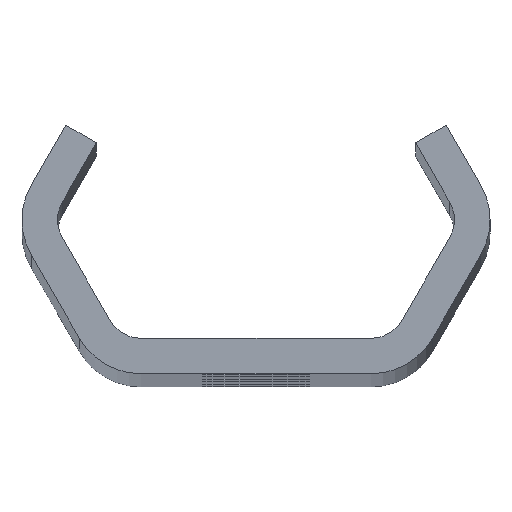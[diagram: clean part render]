
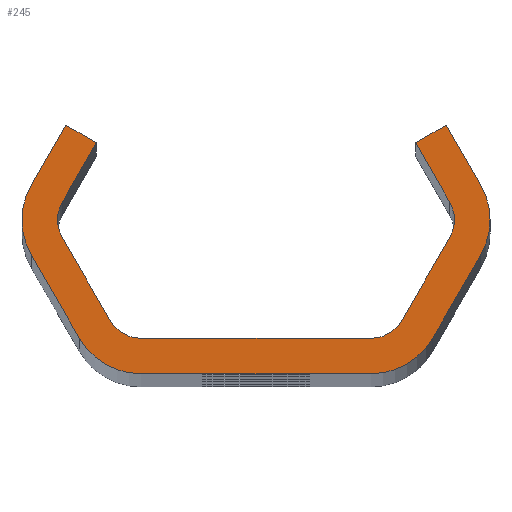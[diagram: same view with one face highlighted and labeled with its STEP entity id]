
A CAD part, top view. The second image highlights one B-rep face of the part: STEP entity #245.
In plain terms, the highlighted planar face has unit normal (0, 0, 1).
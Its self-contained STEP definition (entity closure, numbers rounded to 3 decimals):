
#245=ADVANCED_FACE('NONE',(#635),#636,.F.);
#635=FACE_OUTER_BOUND('',#1837,.T.);
#636=PLANE('',#1838);
#1837=EDGE_LOOP('',(#3645,#3646,#3647,#3648,#3649,#3650,#3651,#3652,#3653,#3654,#3655,#3656,#3657,#3658,#3659,#3660,#3661,#3662,#3663,#3664,#3665,#3666,#3667,#3668));
#1838=AXIS2_PLACEMENT_3D('',#3669,#3670,#3671);
#3645=ORIENTED_EDGE('',*,*,#4901,.T.);
#3646=ORIENTED_EDGE('',*,*,#4920,.T.);
#3647=ORIENTED_EDGE('',*,*,#4773,.T.);
#3648=ORIENTED_EDGE('',*,*,#4903,.T.);
#3649=ORIENTED_EDGE('',*,*,#4921,.T.);
#3650=ORIENTED_EDGE('',*,*,#4907,.T.);
#3651=ORIENTED_EDGE('',*,*,#4922,.T.);
#3652=ORIENTED_EDGE('',*,*,#4780,.T.);
#3653=ORIENTED_EDGE('',*,*,#4923,.T.);
#3654=ORIENTED_EDGE('',*,*,#4686,.T.);
#3655=ORIENTED_EDGE('',*,*,#4783,.T.);
#3656=ORIENTED_EDGE('',*,*,#4789,.T.);
#3657=ORIENTED_EDGE('',*,*,#4792,.T.);
#3658=ORIENTED_EDGE('',*,*,#4770,.T.);
#3659=ORIENTED_EDGE('',*,*,#4924,.T.);
#3660=ORIENTED_EDGE('',*,*,#4794,.T.);
#3661=ORIENTED_EDGE('',*,*,#4925,.T.);
#3662=ORIENTED_EDGE('',*,*,#4801,.T.);
#3663=ORIENTED_EDGE('',*,*,#4926,.T.);
#3664=ORIENTED_EDGE('',*,*,#4888,.T.);
#3665=ORIENTED_EDGE('',*,*,#4927,.T.);
#3666=ORIENTED_EDGE('',*,*,#4681,.T.);
#3667=ORIENTED_EDGE('',*,*,#4891,.T.);
#3668=ORIENTED_EDGE('',*,*,#4897,.T.);
#3669=CARTESIAN_POINT('',(0.0,0.0,640.0));
#3670=DIRECTION('',(0.0,0.0,-1.0));
#3671=DIRECTION('',(0.0,-1.0,0.0));
#4681=EDGE_CURVE('NONE',#5244,#5248,#5250,.T.);
#4686=EDGE_CURVE('NONE',#5253,#5257,#5259,.T.);
#4770=EDGE_CURVE('NONE',#5410,#5408,#5411,.T.);
#4773=EDGE_CURVE('NONE',#5414,#5415,#5416,.T.);
#4780=EDGE_CURVE('NONE',#5428,#5426,#5429,.T.);
#4783=EDGE_CURVE('NONE',#5257,#5432,#5433,.T.);
#4789=EDGE_CURVE('NONE',#5432,#5440,#5442,.T.);
#4792=EDGE_CURVE('NONE',#5440,#5410,#5445,.T.);
#4794=EDGE_CURVE('NONE',#5447,#5448,#5449,.T.);
#4801=EDGE_CURVE('NONE',#5461,#5459,#5462,.T.);
#4888=EDGE_CURVE('NONE',#5622,#5620,#5623,.T.);
#4891=EDGE_CURVE('NONE',#5248,#5626,#5627,.T.);
#4897=EDGE_CURVE('NONE',#5626,#5634,#5636,.T.);
#4901=EDGE_CURVE('NONE',#5634,#5640,#5642,.T.);
#4903=EDGE_CURVE('NONE',#5415,#5644,#5645,.T.);
#4907=EDGE_CURVE('NONE',#5650,#5651,#5652,.T.);
#4920=EDGE_CURVE('NONE',#5640,#5414,#5667,.T.);
#4921=EDGE_CURVE('NONE',#5644,#5650,#5668,.T.);
#4922=EDGE_CURVE('NONE',#5651,#5428,#5669,.T.);
#4923=EDGE_CURVE('NONE',#5426,#5253,#5670,.T.);
#4924=EDGE_CURVE('NONE',#5408,#5447,#5671,.T.);
#4925=EDGE_CURVE('NONE',#5448,#5461,#5672,.T.);
#4926=EDGE_CURVE('NONE',#5459,#5622,#5673,.T.);
#4927=EDGE_CURVE('NONE',#5620,#5244,#5674,.T.);
#5244=VERTEX_POINT('',#6081);
#5248=VERTEX_POINT('NONE',#6086);
#5250=CIRCLE('',#6089,3.0);
#5253=VERTEX_POINT('',#6092);
#5257=VERTEX_POINT('NONE',#6097);
#5259=CIRCLE('',#6100,6.0);
#5408=VERTEX_POINT('NONE',#6965);
#5410=VERTEX_POINT('NONE',#6968);
#5411=CIRCLE('',#6969,3.0);
#5414=VERTEX_POINT('NONE',#6973);
#5415=VERTEX_POINT('NONE',#6974);
#5416=CIRCLE('',#6975,6.0);
#5426=VERTEX_POINT('NONE',#6988);
#5428=VERTEX_POINT('NONE',#6991);
#5429=LINE('',#6992,#6993);
#5432=VERTEX_POINT('NONE',#6997);
#5433=LINE('',#6998,#6999);
#5440=VERTEX_POINT('NONE',#7009);
#5442=LINE('',#7012,#7013);
#5445=LINE('',#7017,#7018);
#5447=VERTEX_POINT('NONE',#7020);
#5448=VERTEX_POINT('NONE',#7021);
#5449=LINE('',#7022,#7023);
#5459=VERTEX_POINT('NONE',#7037);
#5461=VERTEX_POINT('NONE',#7040);
#5462=LINE('',#7041,#7042);
#5620=VERTEX_POINT('NONE',#7602);
#5622=VERTEX_POINT('NONE',#7605);
#5623=LINE('',#7606,#7607);
#5626=VERTEX_POINT('NONE',#7611);
#5627=LINE('',#7612,#7613);
#5634=VERTEX_POINT('NONE',#7623);
#5636=LINE('',#7626,#7627);
#5640=VERTEX_POINT('NONE',#7632);
#5642=LINE('',#7635,#7636);
#5644=VERTEX_POINT('NONE',#7638);
#5645=LINE('',#7639,#7640);
#5650=VERTEX_POINT('NONE',#7647);
#5651=VERTEX_POINT('NONE',#7648);
#5652=LINE('',#7649,#7650);
#5667=CIRCLE('',#7668,6.0);
#5668=CIRCLE('',#7669,6.0);
#5669=CIRCLE('',#7670,6.0);
#5670=CIRCLE('',#7671,6.0);
#5671=CIRCLE('',#7672,3.0);
#5672=CIRCLE('',#7673,3.0);
#5673=CIRCLE('',#7674,3.0);
#5674=CIRCLE('',#7675,3.0);
#6081=CARTESIAN_POINT('',(-16.764,0.,640.0));
#6086=CARTESIAN_POINT('',(-16.362,1.5,640.0));
#6089=AXIS2_PLACEMENT_3D('',#8985,#8986,#8987);
#6092=CARTESIAN_POINT('',(19.764,0.,640.0));
#6097=CARTESIAN_POINT('',(18.96,3.,640.0));
#6100=AXIS2_PLACEMENT_3D('',#8993,#8994,#8995);
#6965=CARTESIAN_POINT('',(16.764,0.,640.0));
#6968=CARTESIAN_POINT('',(16.362,1.5,640.0));
#6969=AXIS2_PLACEMENT_3D('',#9080,#9081,#9082);
#6973=CARTESIAN_POINT('',(-19.764,0.,640.0));
#6974=CARTESIAN_POINT('',(-18.96,-3.,640.0));
#6975=AXIS2_PLACEMENT_3D('',#9084,#9085,#9086);
#6988=CARTESIAN_POINT('',(18.96,-3.,640.0));
#6991=CARTESIAN_POINT('',(14.919,-10.,640.0));
#6992=CARTESIAN_POINT('',(20.692,0.,640.0));
#6993=VECTOR('',#9094,1000.0);
#6997=CARTESIAN_POINT('',(16.074,8.,640.0));
#6998=CARTESIAN_POINT('',(16.074,8.,640.0));
#6999=VECTOR('',#9096,1000.0);
#7009=CARTESIAN_POINT('',(13.475,6.5,640.0));
#7012=CARTESIAN_POINT('',(13.475,6.5,640.0));
#7013=VECTOR('',#9101,1000.0);
#7017=CARTESIAN_POINT('',(17.228,0.,640.0));
#7018=VECTOR('',#9103,1000.0);
#7020=CARTESIAN_POINT('',(16.362,-1.5,640.0));
#7021=CARTESIAN_POINT('',(12.321,-8.5,640.0));
#7022=CARTESIAN_POINT('',(11.455,-10.0,640.0));
#7023=VECTOR('',#9104,1000.0);
#7037=CARTESIAN_POINT('',(-9.723,-10.0,640.0));
#7040=CARTESIAN_POINT('',(9.723,-10.0,640.0));
#7041=CARTESIAN_POINT('',(-11.455,-10.0,640.0));
#7042=VECTOR('',#9110,1000.0);
#7602=CARTESIAN_POINT('',(-16.362,-1.5,640.0));
#7605=CARTESIAN_POINT('',(-12.321,-8.5,640.0));
#7606=CARTESIAN_POINT('',(-17.228,0.,640.0));
#7607=VECTOR('',#9204,1000.0);
#7611=CARTESIAN_POINT('',(-13.475,6.5,640.0));
#7612=CARTESIAN_POINT('',(-13.475,6.5,640.0));
#7613=VECTOR('',#9206,1000.0);
#7623=CARTESIAN_POINT('',(-16.074,8.,640.0));
#7626=CARTESIAN_POINT('',(-13.475,6.5,640.0));
#7627=VECTOR('',#9211,1000.0);
#7632=CARTESIAN_POINT('',(-18.96,3.,640.0));
#7635=CARTESIAN_POINT('',(-16.074,8.,640.0));
#7636=VECTOR('',#9214,1000.0);
#7638=CARTESIAN_POINT('',(-14.919,-10.,640.0));
#7639=CARTESIAN_POINT('',(-20.692,0.,640.0));
#7640=VECTOR('',#9215,1000.0);
#7647=CARTESIAN_POINT('',(-9.723,-13.0,640.0));
#7648=CARTESIAN_POINT('',(9.723,-13.0,640.0));
#7649=CARTESIAN_POINT('',(-13.187,-13.0,640.0));
#7650=VECTOR('',#9218,1000.0);
#7668=AXIS2_PLACEMENT_3D('',#9246,#9247,#9248);
#7669=AXIS2_PLACEMENT_3D('',#9249,#9250,#9251);
#7670=AXIS2_PLACEMENT_3D('',#9252,#9253,#9254);
#7671=AXIS2_PLACEMENT_3D('',#9255,#9256,#9257);
#7672=AXIS2_PLACEMENT_3D('',#9258,#9259,#9260);
#7673=AXIS2_PLACEMENT_3D('',#9261,#9262,#9263);
#7674=AXIS2_PLACEMENT_3D('',#9264,#9265,#9266);
#7675=AXIS2_PLACEMENT_3D('',#9267,#9268,#9269);
#8985=CARTESIAN_POINT('',(-13.764,0.,640.0));
#8986=DIRECTION('',(0.0,0.0,-1.0));
#8987=DIRECTION('',(-1.0,0.0,0.0));
#8993=CARTESIAN_POINT('',(13.764,0.,640.0));
#8994=DIRECTION('',(0.0,0.0,1.0));
#8995=DIRECTION('',(-1.0,0.0,0.0));
#9080=CARTESIAN_POINT('',(13.764,0.,640.0));
#9081=DIRECTION('',(0.0,0.0,-1.0));
#9082=DIRECTION('',(-1.0,0.0,0.0));
#9084=CARTESIAN_POINT('',(-13.764,0.,640.0));
#9085=DIRECTION('',(0.0,0.0,1.0));
#9086=DIRECTION('',(-1.0,0.0,0.0));
#9094=DIRECTION('',(0.5,0.866,-0.0));
#9096=DIRECTION('',(-0.5,0.866,-0.0));
#9101=DIRECTION('',(-0.866,-0.5,-0.0));
#9103=DIRECTION('',(0.5,-0.866,-0.0));
#9104=DIRECTION('',(-0.5,-0.866,-0.0));
#9110=DIRECTION('',(-1.0,0.,-0.0));
#9204=DIRECTION('',(-0.5,0.866,-0.0));
#9206=DIRECTION('',(0.5,0.866,-0.0));
#9211=DIRECTION('',(-0.866,0.5,0.0));
#9214=DIRECTION('',(-0.5,-0.866,0.0));
#9215=DIRECTION('',(0.5,-0.866,0.0));
#9218=DIRECTION('',(1.0,0.0,0.0));
#9246=CARTESIAN_POINT('',(-13.764,0.,640.0));
#9247=DIRECTION('',(0.0,0.0,1.0));
#9248=DIRECTION('',(-1.0,0.0,0.0));
#9249=CARTESIAN_POINT('',(-9.723,-7.0,640.0));
#9250=DIRECTION('',(0.0,0.0,1.0));
#9251=DIRECTION('',(-1.0,0.0,0.0));
#9252=CARTESIAN_POINT('',(9.723,-7.0,640.0));
#9253=DIRECTION('',(0.0,0.0,1.0));
#9254=DIRECTION('',(-1.0,0.,0.0));
#9255=CARTESIAN_POINT('',(13.764,0.,640.0));
#9256=DIRECTION('',(0.0,0.0,1.0));
#9257=DIRECTION('',(-1.0,0.0,0.0));
#9258=CARTESIAN_POINT('',(13.764,0.,640.0));
#9259=DIRECTION('',(0.0,0.0,-1.0));
#9260=DIRECTION('',(-1.0,0.0,0.0));
#9261=CARTESIAN_POINT('',(9.723,-7.0,640.0));
#9262=DIRECTION('',(0.0,0.0,-1.0));
#9263=DIRECTION('',(-1.0,0.0,0.0));
#9264=CARTESIAN_POINT('',(-9.723,-7.0,640.0));
#9265=DIRECTION('',(0.0,0.0,-1.0));
#9266=DIRECTION('',(-1.0,0.0,0.0));
#9267=CARTESIAN_POINT('',(-13.764,0.,640.0));
#9268=DIRECTION('',(0.0,0.0,-1.0));
#9269=DIRECTION('',(-1.0,0.0,0.0));
